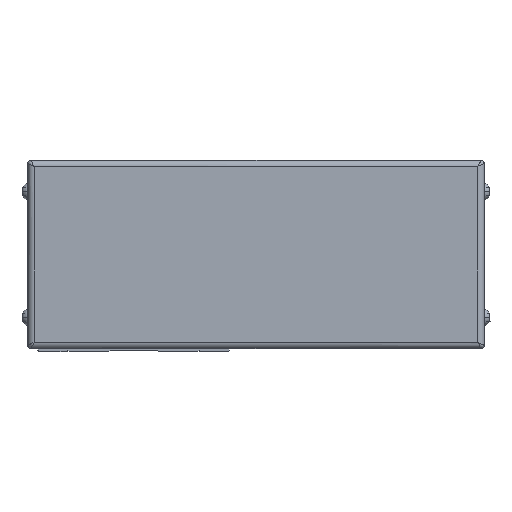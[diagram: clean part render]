
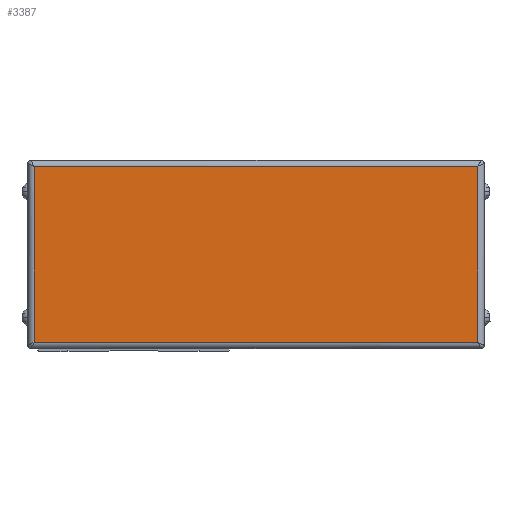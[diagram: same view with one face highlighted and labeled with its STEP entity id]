
A CAD part, left-side view. The second image highlights one B-rep face of the part: STEP entity #3387.
In plain terms, the highlighted planar face has unit normal (-1, 0, 0) as drawn and (0, 0, 1) by its records, which use the part's own axes.
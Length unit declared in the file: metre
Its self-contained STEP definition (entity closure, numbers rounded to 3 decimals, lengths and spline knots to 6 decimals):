
#3387=ADVANCED_FACE('',(#7807),#7808,.T.);
#7807=FACE_OUTER_BOUND('',#14255,.T.);
#7808=PLANE('',#14256);
#14255=EDGE_LOOP('',(#24814,#24815,#24816,#24817));
#14256=AXIS2_PLACEMENT_3D('',#24818,#24819,#24820);
#24814=ORIENTED_EDGE('',*,*,#41475,.F.);
#24815=ORIENTED_EDGE('',*,*,#41476,.F.);
#24816=ORIENTED_EDGE('',*,*,#41477,.F.);
#24817=ORIENTED_EDGE('',*,*,#41478,.F.);
#24818=CARTESIAN_POINT('',(-0.009,-0.053256,0.033889));
#24819=DIRECTION('',(0.0,0.0,1.0));
#24820=DIRECTION('',(1.0,0.0,0.0));
#41475=EDGE_CURVE('',#48368,#48369,#48370,.T.);
#41476=EDGE_CURVE('',#48371,#48368,#48372,.T.);
#41477=EDGE_CURVE('',#48373,#48371,#48374,.T.);
#41478=EDGE_CURVE('',#48369,#48373,#48375,.T.);
#48368=VERTEX_POINT('',#58399);
#48369=VERTEX_POINT('',#58400);
#48370=LINE('',#58401,#58402);
#48371=VERTEX_POINT('',#58403);
#48372=LINE('',#58404,#58405);
#48373=VERTEX_POINT('',#58406);
#48374=LINE('',#58407,#58408);
#48375=LINE('',#58409,#58410);
#58399=CARTESIAN_POINT('',(0.019,0.017444,0.033889));
#58400=CARTESIAN_POINT('',(0.019,-0.123956,0.033889));
#58401=CARTESIAN_POINT('',(0.019,-0.053256,0.033889));
#58402=VECTOR('',#72188,1.0);
#58403=CARTESIAN_POINT('',(-0.037,0.017444,0.033889));
#58404=CARTESIAN_POINT('',(-0.009,0.017444,0.033889));
#58405=VECTOR('',#72189,1.0);
#58406=CARTESIAN_POINT('',(-0.037,-0.123956,0.033889));
#58407=CARTESIAN_POINT('',(-0.037,-0.053256,0.033889));
#58408=VECTOR('',#72190,1.0);
#58409=CARTESIAN_POINT('',(-0.009,-0.123956,0.033889));
#58410=VECTOR('',#72191,1.0);
#72188=DIRECTION('',(0.0,-1.0,0.0));
#72189=DIRECTION('',(1.0,0.0,0.0));
#72190=DIRECTION('',(0.0,1.0,0.0));
#72191=DIRECTION('',(-1.0,0.0,0.0));
